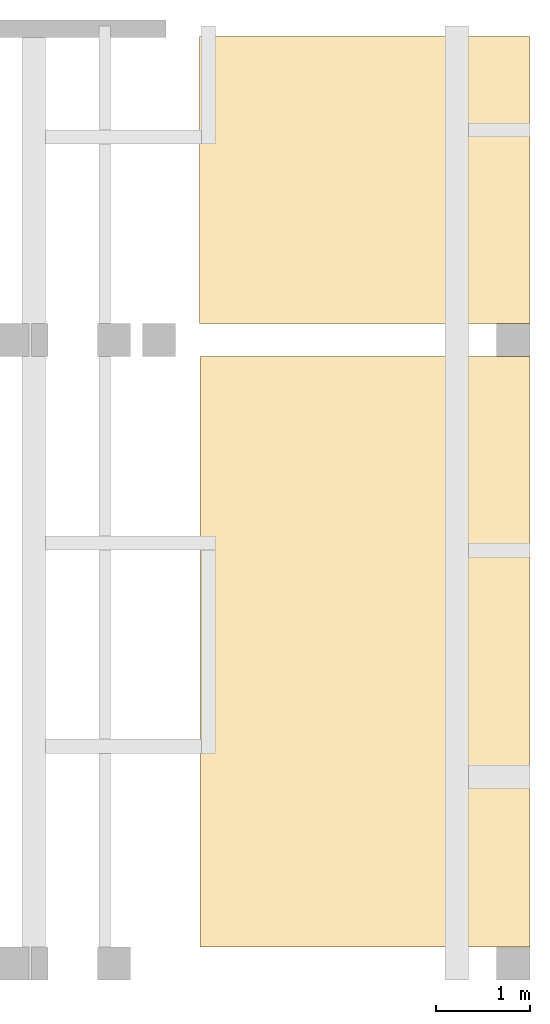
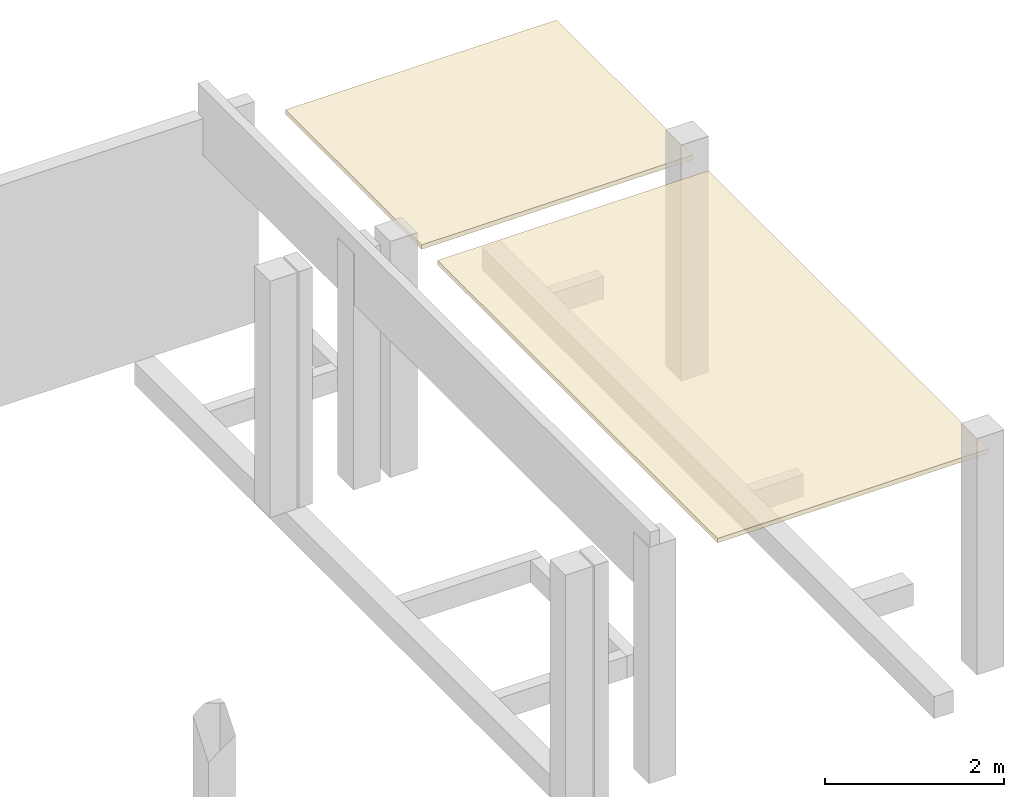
# One storey, part 3 of 3: 2 coverings.
"""IFC2X3 building model written with IfcOpenShell, lengths in millimetres."""

import ifcopenshell
import ifcopenshell.guid

model = None  # the IFC model being written
_history = None  # IfcOwnerHistory: only IFC2X3 demands one
_inside = {}  # id of a spatial element -> (the spatial element, [elements in it])
_under = {}  # id of a project, library or spatial element -> (it, [spatial elements below it])
_declared = {}  # id of a project -> (the project, [libraries it declares])
_typed = {}  # id of a type object -> (the type object, [elements of that type])
_made_of = {}  # id of a material, layer set ... -> (it, [elements and type objects made of it])


def new_model(schema):
    """Start an empty IFC model of exactly this schema.

    Asked for "IFC4X3", IfcOpenShell would pick the latest addendum, in which some entities
    have other attributes; the version numbers below select the first issue.
    IFC2X3 requires an IfcOwnerHistory on every rooted entity: one is made here for all.
    """
    global model, _history
    if schema == "IFC4X3":
        model = ifcopenshell.file(schema_version=(4, 3, 0, 0))
    else:
        model = ifcopenshell.file(schema=schema)
    _inside.clear()
    _under.clear()
    _declared.clear()
    _typed.clear()
    _made_of.clear()
    _history = None
    if model.schema == "IFC2X3":
        org = make("IfcOrganization", Name="unknown")
        user = make(
            "IfcPersonAndOrganization",
            ThePerson=make("IfcPerson", FamilyName="unknown"),
            TheOrganization=org,
        )
        app = make(
            "IfcApplication",
            ApplicationDeveloper=org,
            Version="unknown",
            ApplicationFullName="unknown",
            ApplicationIdentifier="unknown",
        )
        _history = make(
            "IfcOwnerHistory",
            OwningUser=user,
            OwningApplication=app,
            ChangeAction="ADDED",
            CreationDate=0,
        )
    return model


def make(cls, **values):
    """One entity of the class cls with the attributes given. An attribute that is None is left unset."""
    return model.create_entity(
        cls, **{name: value for name, value in values.items() if value is not None}
    )


def entity(cls, *values):
    """Any entity or typed value of the class cls, its attributes in the order of the schema. None: left unset."""
    e = model.create_entity(cls)
    for i, value in enumerate(values):
        if value is not None:
            e[i] = value
    return e


def rooted(cls, **values):
    """An entity with a GlobalId (a new one), such as an element, a storey or a relation."""
    return make(cls, GlobalId=ifcopenshell.guid.new(), OwnerHistory=_history, **values)


def si_unit(unit_type, name, prefix=None):
    """IfcSIUnit, for example si_unit("LENGTHUNIT", "METRE", prefix="MILLI")."""
    return make("IfcSIUnit", UnitType=unit_type, Prefix=prefix, Name=name)


def converted_unit(unit_type, name, factor, base, dimensions=None, offset=None):
    """IfcConversionBasedUnit, such as the inch: factor (a typed value) times the base unit."""
    return make(
        "IfcConversionBasedUnit"
        if offset is None
        else "IfcConversionBasedUnitWithOffset",
        ConversionOffset=offset,
        Dimensions=None
        if dimensions is None
        else entity("IfcDimensionalExponents", *dimensions),
        UnitType=unit_type,
        Name=name,
        ConversionFactor=make(
            "IfcMeasureWithUnit", ValueComponent=factor, UnitComponent=base
        ),
    )


def derived_unit(unit_type, elements):
    """IfcDerivedUnit: a product of units, each with its exponent."""
    return make(
        "IfcDerivedUnit",
        Elements=[
            make("IfcDerivedUnitElement", Unit=unit, Exponent=power)
            for unit, power in elements
        ],
        UnitType=unit_type,
    )


def assignment(units):
    """IfcUnitAssignment: the units of a project."""
    return None if units is None else make("IfcUnitAssignment", Units=units)


def point(xyz):
    """IfcCartesianPoint."""
    return None if xyz is None else make("IfcCartesianPoint", Coordinates=xyz)


def direction(xyz):
    """IfcDirection."""
    return None if xyz is None else make("IfcDirection", DirectionRatios=xyz)


def frame(location, z_axis=None, x_axis=None):
    """IfcAxis2Placement3D, a coordinate frame: its origin and axes. An axis left out is left unset."""
    return make(
        "IfcAxis2Placement3D",
        Location=point(location),
        Axis=direction(z_axis),
        RefDirection=direction(x_axis),
    )


def origin():
    """The frame at (0, 0, 0) with its axes left unset."""
    return frame((0.0, 0.0, 0.0))


def origin_with_axes():
    """The frame at (0, 0, 0) with the z axis (0, 0, 1) and the x axis (1, 0, 0) written out."""
    return frame((0.0, 0.0, 0.0), z_axis=(0.0, 0.0, 1.0), x_axis=(1.0, 0.0, 0.0))


def place(relative_to, where):
    """IfcLocalPlacement: puts the frame where relative to a parent placement (None: the world)."""
    return make(
        "IfcLocalPlacement", PlacementRelTo=relative_to, RelativePlacement=where
    )


def context(
    kind, dimensions, precision=None, world=None, true_north=None, identifier=None
):
    """IfcGeometricRepresentationContext, for example the 3D "Model" context."""
    return make(
        "IfcGeometricRepresentationContext",
        ContextIdentifier=identifier,
        ContextType=kind,
        CoordinateSpaceDimension=dimensions,
        Precision=precision,
        WorldCoordinateSystem=world,
        TrueNorth=true_north,
    )


def subcontext(parent, identifier, kind, view, scale=None):
    """IfcGeometricRepresentationSubContext, for example "Body" below "Model"."""
    return make(
        "IfcGeometricRepresentationSubContext",
        ContextIdentifier=identifier,
        ContextType=kind,
        ParentContext=parent,
        TargetScale=scale,
        TargetView=view,
    )


def project(units=None, contexts=None):
    """IfcProject with its units and contexts."""
    return rooted(
        "IfcProject",
        Name="project",
        RepresentationContexts=contexts,
        UnitsInContext=assignment(units),
    )


def spatial(cls, under=None, at=None, **own):
    """A site, building, storey or space (cls), placed at a placement, below another one or the project."""
    s = rooted(cls, ObjectPlacement=at, **own)
    if under is not None:
        _under.setdefault(under.id(), (under, []))[1].append(s)
    return s


def faces_of(points, faces, orient=None, outer=None):
    """IfcFace entities. A face is a list of loops; a loop is a list of indices into points, from 0.

    orient and outer hold one flag for each loop. By default every Orientation is true, the
    first loop of a face is its IfcFaceOuterBound and the others are IfcFaceBound.
    """
    made = []
    for i, loops in enumerate(faces):
        bounds = []
        for j, loop in enumerate(loops):
            is_outer = j == 0 if outer is None else outer[i][j]
            bounds.append(
                make(
                    "IfcFaceOuterBound" if is_outer else "IfcFaceBound",
                    Bound=make("IfcPolyLoop", Polygon=[points[k] for k in loop]),
                    Orientation=True if orient is None else orient[i][j],
                )
            )
        made.append(make("IfcFace", Bounds=bounds))
    return made


def faceted_brep(points, faces, orient=None, outer=None, voids=None):
    """IfcFacetedBrep: a solid bounded by flat faces; with voids (closed shells), ...WithVoids."""
    shared = [point(p) for p in points]
    hull = make("IfcClosedShell", CfsFaces=faces_of(shared, faces, orient, outer))
    if voids is None:
        return make("IfcFacetedBrep", Outer=hull)
    return make(
        "IfcFacetedBrepWithVoids",
        Outer=hull,
        Voids=[
            make(cls, CfsFaces=faces_of(shared, fs, o, b)) for cls, fs, o, b in voids
        ],
    )


def shape(context_of_items, identifier, shape_type, items):
    """IfcShapeRepresentation: the items that make up one representation, for example the "Body"."""
    return make(
        "IfcShapeRepresentation",
        ContextOfItems=context_of_items,
        RepresentationIdentifier=identifier,
        RepresentationType=shape_type,
        Items=items,
    )


def made_of(thing, what):
    """Note that an element or type object is made of a material, layer set ...; save() writes the relation."""
    if what is not None:
        _made_of.setdefault(what.id(), (what, []))[1].append(thing)
    return thing


def type_object(cls, material=None, **own):
    """A type object (cls), such as IfcWallType, which elements share."""
    return made_of(rooted(cls, **own), material)


def element(
    cls,
    number,
    at=None,
    inside=None,
    cuts=None,
    type_object=None,
    material=None,
    context=None,
    identifier="Body",
    shape_type=None,
    held_by="IfcProductDefinitionShape",
    body=None,
    shapes=None,
    **own,
):
    """One element of the class cls, such as IfcWall. Its Tag is "e" and its number.

    at: its placement. inside: the storey or other place that contains it. cuts: it is an
    opening in that element (IfcRelVoidsElement). A single representation is given by context,
    identifier, shape_type and body (its items); several are given by shapes. held_by: the class
    of the entity that holds the representations. save() writes the other relations.
    """
    e = rooted(cls, Tag="e%d" % number, ObjectPlacement=at, **own)
    if body is not None:
        shapes = [shape(context, identifier, shape_type, body)]
    if shapes is not None:
        e.Representation = make(held_by, Representations=shapes)
    if inside is not None:
        _inside.setdefault(inside.id(), (inside, []))[1].append(e)
    if cuts is not None:
        rooted(
            "IfcRelVoidsElement", RelatingBuildingElement=cuts, RelatedOpeningElement=e
        )
    if type_object is not None:
        _typed.setdefault(type_object.id(), (type_object, []))[1].append(e)
    return made_of(e, material)


def aggregate(whole, parts):
    """IfcRelAggregates: a whole, such as a stair, and the parts it consists of."""
    return rooted("IfcRelAggregates", RelatingObject=whole, RelatedObjects=parts)


def save(model, path):
    """Write the relations noted so far, then the file.

    IfcRelAggregates (storeys below a building ...), IfcRelContainedInSpatialStructure (elements
    in a storey), IfcRelDefinesByType, IfcRelAssociatesMaterial and IfcRelDeclares: one each for
    every whole, place, type object, material and project.
    """
    for whole, parts in _under.values():
        aggregate(whole, parts)
    for where, things in _inside.values():
        rooted(
            "IfcRelContainedInSpatialStructure",
            RelatedElements=things,
            RelatingStructure=where,
        )
    for kind, things in _typed.values():
        rooted("IfcRelDefinesByType", RelatedObjects=things, RelatingType=kind)
    for what, things in _made_of.values():
        rooted("IfcRelAssociatesMaterial", RelatedObjects=things, RelatingMaterial=what)
    for by, libraries in _declared.values():
        rooted("IfcRelDeclares", RelatingContext=by, RelatedDefinitions=libraries)
    model.write(path)


model = new_model("IFC2X3")

# Units and contexts
model_context = context("Model", 3, precision=0.01, world=origin(), true_north=direction((6.12303176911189e-17, 1.0)))
plan_context = context("Plan", 3, precision=1e-05, world=origin_with_axes())
body_context = subcontext(model_context, "Body", "Model", "MODEL_VIEW")
ifc_project = project(units=[converted_unit("PLANEANGLEUNIT", "DEGREE", entity("IfcPositiveLengthMeasure", 0.0174532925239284), si_unit("PLANEANGLEUNIT", "RADIAN"), dimensions=[0, 0, 0, 0, 0, 0, 0]), si_unit("AREAUNIT", "SQUARE_METRE"), si_unit("LENGTHUNIT", "METRE", prefix="MILLI"), si_unit("MASSUNIT", "GRAM", prefix="KILO"), si_unit("POWERUNIT", "WATT"), si_unit("PRESSUREUNIT", "PASCAL"), si_unit("FORCEUNIT", "NEWTON", prefix="KILO"), si_unit("ELECTRICVOLTAGEUNIT", "VOLT"), si_unit("ELECTRICCURRENTUNIT", "AMPERE"), si_unit("THERMODYNAMICTEMPERATUREUNIT", "DEGREE_CELSIUS"), si_unit("TIMEUNIT", "SECOND"), si_unit("VOLUMEUNIT", "CUBIC_METRE"), derived_unit("LINEARVELOCITYUNIT", [(si_unit("LENGTHUNIT", "METRE"), 1), (si_unit("TIMEUNIT", "SECOND"), -1)]), derived_unit("VOLUMETRICFLOWRATEUNIT", [(si_unit("VOLUMEUNIT", "CUBIC_METRE"), 1), (si_unit("TIMEUNIT", "SECOND"), -1)]), derived_unit("THERMALTRANSMITTANCEUNIT", [(si_unit("POWERUNIT", "WATT"), 1), (si_unit("THERMODYNAMICTEMPERATUREUNIT", "KELVIN"), -1), (si_unit("AREAUNIT", "SQUARE_METRE"), -1)]), derived_unit("SOUNDPRESSUREUNIT", [(si_unit("PRESSUREUNIT", "PASCAL"), 1)])], contexts=[model_context, plan_context])

# Site, building, storey
site_placement = place(None, frame((2314154.5009392, 1029894.10887124, 0.0), z_axis=(0.0, 0.0, 1.0), x_axis=(1.0, 0.0, 0.0)))
site = spatial("IfcSite", under=ifc_project, at=site_placement, Name="Default", CompositionType="ELEMENT")
building_placement = place(site_placement, origin_with_axes())
building = spatial("IfcBuilding", under=site, at=building_placement, CompositionType="ELEMENT")
storey_placement = place(building_placement, frame((0.0, 0.0, 10650.0), z_axis=(0.0, 0.0, 1.0), x_axis=(1.0, 0.0, 0.0)))
storey = spatial("IfcBuildingStorey", under=building, at=storey_placement, Name="XX - C+10,65 TB E1", CompositionType="ELEMENT", Elevation=10650.0)

# Coverings
covering_type = type_object("IfcCoveringType", Name="Compound Ceiling:V_Terminal B_1200X600", PredefinedType="CEILING")
covering_1_placement = place(storey_placement, origin_with_axes())
element("IfcCovering", 1, at=covering_1_placement, inside=storey, type_object=covering_type, Name="Compound Ceiling:V_Terminal B_1200X600", ObjectType="Compound Ceiling:V_Terminal B_1200X600", PredefinedType="CEILING", context=body_context, shape_type="Brep", body=[
    faceted_brep([(308846.387604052, -33437.4514097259, 2690.0), (308846.387604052, -33437.4514097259, 2750.0), (308846.387604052, -36474.4514097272, 2750.0), (308846.387604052, -36474.4514097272, 2690.0), (312341.133947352, -36474.4514097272, 2750.0), (312341.133947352, -36474.4514097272, 2690.0), (312341.133947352, -33437.4514097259, 2690.0), (312341.133947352, -33437.4514097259, 2750.0)], [[[0, 1, 2, 3]], [[4, 5, 3, 2]], [[6, 7, 1, 0]], [[5, 6, 0, 3]], [[7, 4, 2, 1]], [[7, 6, 5, 4]]], orient=[[False], [False], [False], [False], [False], [False]]),
])
covering_2_placement = place(storey_placement, origin_with_axes())
element("IfcCovering", 2, at=covering_2_placement, inside=storey, type_object=covering_type, Name="Compound Ceiling:V_Terminal B_1200X600", ObjectType="Compound Ceiling:V_Terminal B_1200X600", PredefinedType="CEILING", context=body_context, shape_type="Brep", body=[
    faceted_brep([(312341.133947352, -36824.4514097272, 2690.0), (312341.133947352, -36824.4514097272, 2750.0), (308851.693720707, -36824.4514097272, 2750.0), (308851.693720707, -36824.4514097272, 2690.0), (308851.693720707, -43074.4514097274, 2750.0), (308851.693720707, -43074.4514097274, 2690.0), (312341.133947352, -43074.4514097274, 2750.0), (312341.133947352, -43074.4514097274, 2690.0)], [[[0, 1, 2, 3]], [[3, 2, 4, 5]], [[6, 7, 5, 4]], [[7, 0, 3, 5]], [[1, 6, 4, 2]], [[7, 6, 1, 0]]], orient=[[False], [False], [False], [False], [False], [False]]),
])

save(model, "model.ifc")
